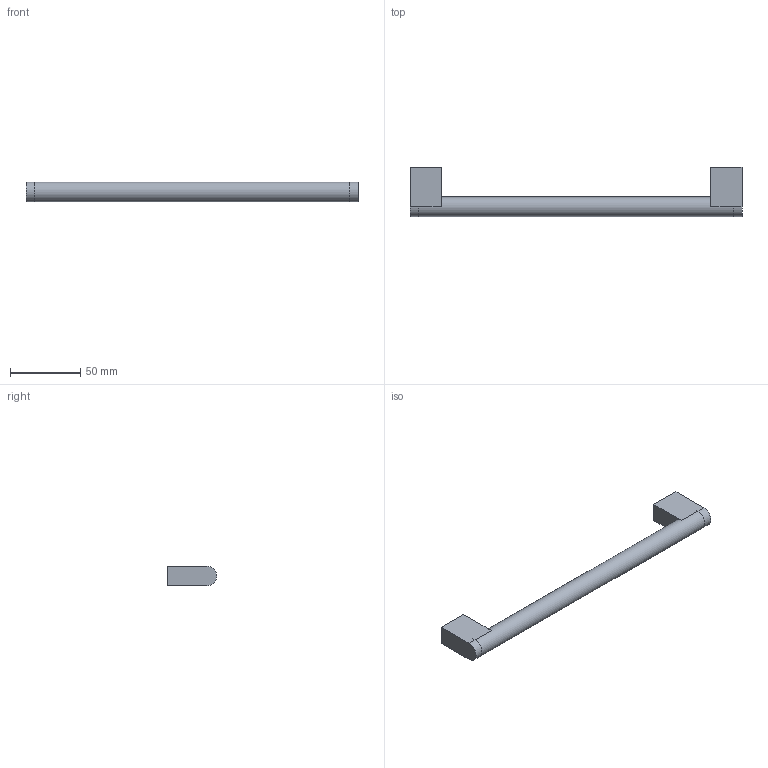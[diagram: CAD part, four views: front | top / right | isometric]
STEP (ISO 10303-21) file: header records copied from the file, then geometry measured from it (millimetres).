
FILE_DESCRIPTION( ( 'STEP AP214' ), ' ' );
FILE_NAME( 'C:/Users/bhog/Desktop/Handle/9070106/9070106.stp', '2018-11-20T10:20:29', ( '' ), ( '' ), ' ', 'PARTsolutions', ' ' );
FILE_SCHEMA( ( 'AUTOMOTIVE_DESIGN { 1 0 10303 214 1 1 1 1 }' ) );
Length unit declared in the file: millimetre
Products named in the file (1): _9070106
Bounding box: 236 x 35 x 14 mm (x, y, z)
Volume: 50030 mm3; surface area: 15761 mm2
Topology: 1 solids, 1 shells, 21 faces, 41 edges, 26 vertices
Faces by surface type: plane 14, cylinder 7
Full cylindrical faces by diameter (mm): 4 x2, 13.98 x1
Entity records: 706 total; most frequent: DIRECTION 96, CARTESIAN_POINT 86, ORIENTED_EDGE 76, EDGE_CURVE 38, AXIS2_PLACEMENT_3D 36, EDGE_LOOP 28, VERTEX_POINT 26, FACE_OUTER_BOUND 24
